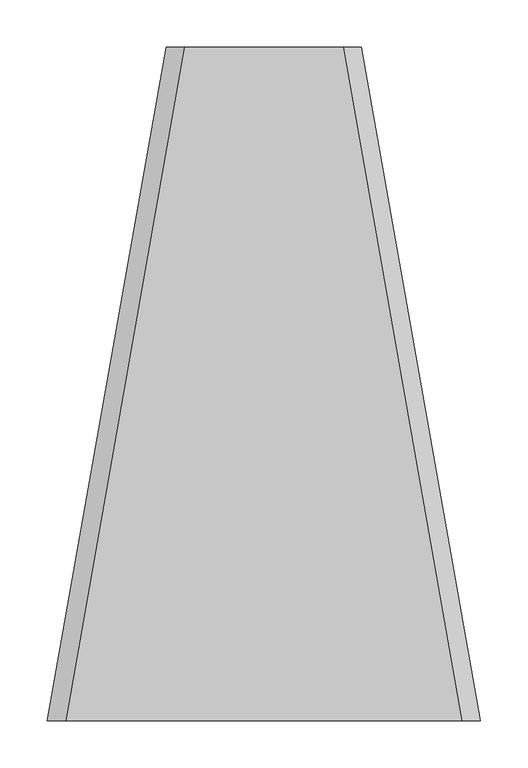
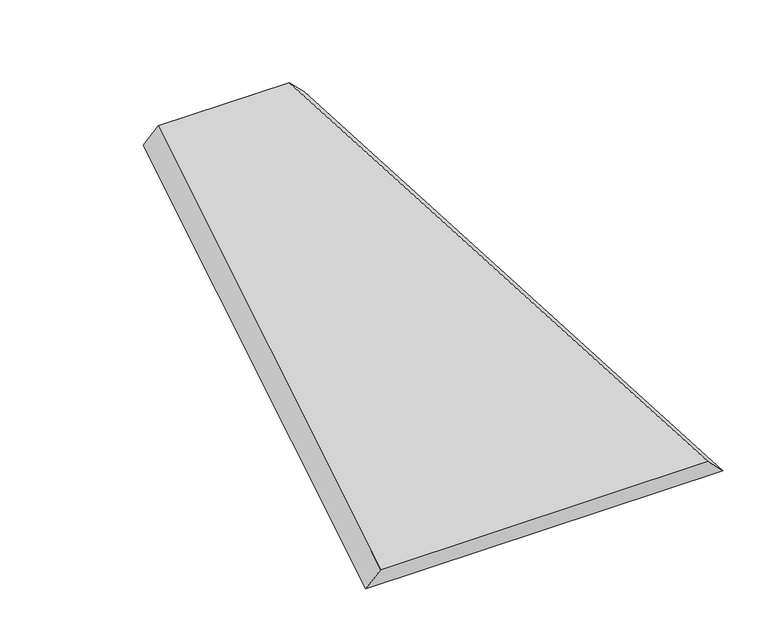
"""IFC4 building model written with IfcOpenShell, lengths in millimetres: proxy geometry, GRADIENT^TABLE 7_PYRAMID BASES-CTR BASE LEFT SIDE."""

from ifc_helpers import new_model, si_unit, origin, place, context, project, spatial, faceted_brep, source, transform, mapped, element, save


def generic_models_d6f1b84a(model_context):
    return source(origin(), model_context, "Body", "Brep", [
        faceted_brep([(2030.4037487, 0.0, -941.3962513), (1905.0, -711.2, -1066.8), (1924.343877, -711.2, -1047.456123), (2049.7476256, 0.0, -922.0523744), (2236.7962513, 0.0, -941.3962513), (2362.2, -711.2, -1066.8), (2217.4523744, 0.0, -922.0523744), (2342.856123, -711.2, -1047.456123)], [[[0, 1, 2, 3]], [[1, 0, 4, 5]], [[0, 3, 6, 4]], [[3, 2, 7, 6]], [[2, 1, 5, 7]], [[5, 4, 6, 7]]]),
    ])


if __name__ == "__main__":
    model = new_model("IFC4")
    model_context = context("Model", 3, world=origin())
    ifc_project = project(units=[si_unit("LENGTHUNIT", "METRE", prefix="MILLI")], contexts=[model_context])
    site = spatial("IfcSite", under=ifc_project)
    building = spatial("IfcBuilding", under=site)
    placement = place(None, origin())
    generic_models_shape = generic_models_d6f1b84a(model_context)
    element("IfcBuildingElementProxy", 1, Name="GRADIENT^TABLE 7_PYRAMID BASES-CTR BASE LEFT SIDE", ObjectType="GRADIENT^TABLE 7_PYRAMID BASES-CTR BASE LEFT SIDE", at=placement, inside=building, context=model_context, shape_type="MappedRepresentation", body=[
        mapped(generic_models_shape, transform((0.0, 0.0, 0.0), x_axis=(1.0, 0.0, 0.0), y_axis=(0.0, 1.0, 0.0), z_axis=(0.0, 0.0, 1.0))),
    ])
    save(model, "model.ifc")
